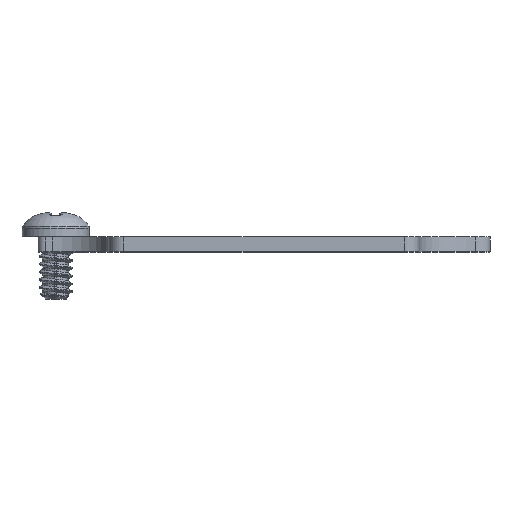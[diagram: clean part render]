
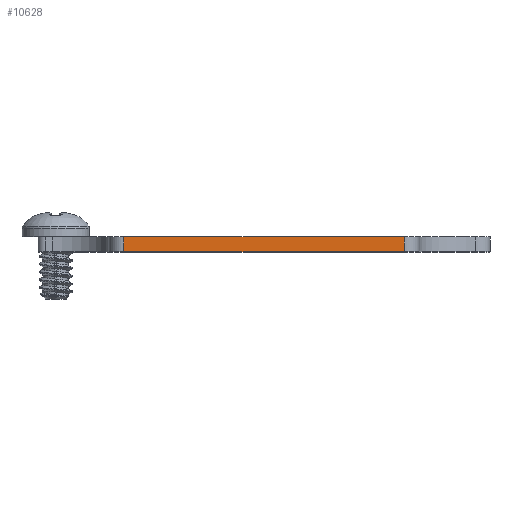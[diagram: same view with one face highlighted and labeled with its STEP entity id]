
A CAD part, top view. The second image highlights one B-rep face of the part: STEP entity #10628.
In plain terms, the highlighted planar face has unit normal (0, 0, 1).
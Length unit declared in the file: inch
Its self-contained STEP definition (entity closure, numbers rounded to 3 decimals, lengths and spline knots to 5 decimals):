
#595 = DIRECTION ( 'NONE',  ( 0., -1., 0. ) ) ;
#1344 = CARTESIAN_POINT ( 'NONE',  ( -0.56103, 0., 0.64961 ) ) ;
#2493 = CARTESIAN_POINT ( 'NONE',  ( -0.56103, 0.06, 0.64961 ) ) ;
#2687 = EDGE_LOOP ( 'NONE', ( #12810, #8098, #10581, #14937 ) ) ;
#3746 = CARTESIAN_POINT ( 'NONE',  ( -0.56103, 0.06, 0.64961 ) ) ;
#3862 = VECTOR ( 'NONE', #11973, 39.37008 ) ;
#4020 = VERTEX_POINT ( 'NONE', #14610 ) ;
#4195 = VECTOR ( 'NONE', #7166, 39.37008 ) ;
#4608 = EDGE_CURVE ( 'NONE', #6112, #4020, #16663, .T. ) ;
#5013 = LINE ( 'NONE', #1344, #3862 ) ;
#5065 = FACE_OUTER_BOUND ( 'NONE', #2687, .T. ) ;
#5172 = VERTEX_POINT ( 'NONE', #12045 ) ;
#5859 = CARTESIAN_POINT ( 'NONE',  ( -0.56103, 0.06, 0.64961 ) ) ;
#6112 = VERTEX_POINT ( 'NONE', #2493 ) ;
#7166 = DIRECTION ( 'NONE',  ( 0., -1., 0. ) ) ;
#7403 = CARTESIAN_POINT ( 'NONE',  ( 0.56103, 0.06, 0.64961 ) ) ;
#7761 = DIRECTION ( 'NONE',  ( -1., 0., 0. ) ) ;
#8098 = ORIENTED_EDGE ( 'NONE', *, *, #10871, .F. ) ;
#8511 = LINE ( 'NONE', #13834, #15545 ) ;
#8717 = VECTOR ( 'NONE', #595, 39.37008 ) ;
#9054 = DIRECTION ( 'NONE',  ( 0., 0., -1. ) ) ;
#9504 = CARTESIAN_POINT ( 'NONE',  ( 0.56103, 0.06, 0.64961 ) ) ;
#9555 = DIRECTION ( 'NONE',  ( 1., 0., 0. ) ) ;
#10140 = AXIS2_PLACEMENT_3D ( 'NONE', #3746, #9054, #7761 ) ;
#10367 = PLANE ( 'NONE',  #10140 ) ;
#10581 = ORIENTED_EDGE ( 'NONE', *, *, #13984, .F. ) ;
#10628 = ADVANCED_FACE ( 'NONE', ( #5065 ), #10367, .F. ) ;
#10871 = EDGE_CURVE ( 'NONE', #11408, #5172, #11228, .T. ) ;
#11228 = LINE ( 'NONE', #7403, #8717 ) ;
#11408 = VERTEX_POINT ( 'NONE', #9504 ) ;
#11973 = DIRECTION ( 'NONE',  ( 1., 0., 0. ) ) ;
#12045 = CARTESIAN_POINT ( 'NONE',  ( 0.56103, 0., 0.64961 ) ) ;
#12810 = ORIENTED_EDGE ( 'NONE', *, *, #14516, .T. ) ;
#13834 = CARTESIAN_POINT ( 'NONE',  ( -0.56103, 0.06, 0.64961 ) ) ;
#13984 = EDGE_CURVE ( 'NONE', #6112, #11408, #8511, .T. ) ;
#14516 = EDGE_CURVE ( 'NONE', #4020, #5172, #5013, .T. ) ;
#14610 = CARTESIAN_POINT ( 'NONE',  ( -0.56103, 0., 0.64961 ) ) ;
#14937 = ORIENTED_EDGE ( 'NONE', *, *, #4608, .T. ) ;
#15545 = VECTOR ( 'NONE', #9555, 39.37008 ) ;
#16663 = LINE ( 'NONE', #5859, #4195 ) ;
